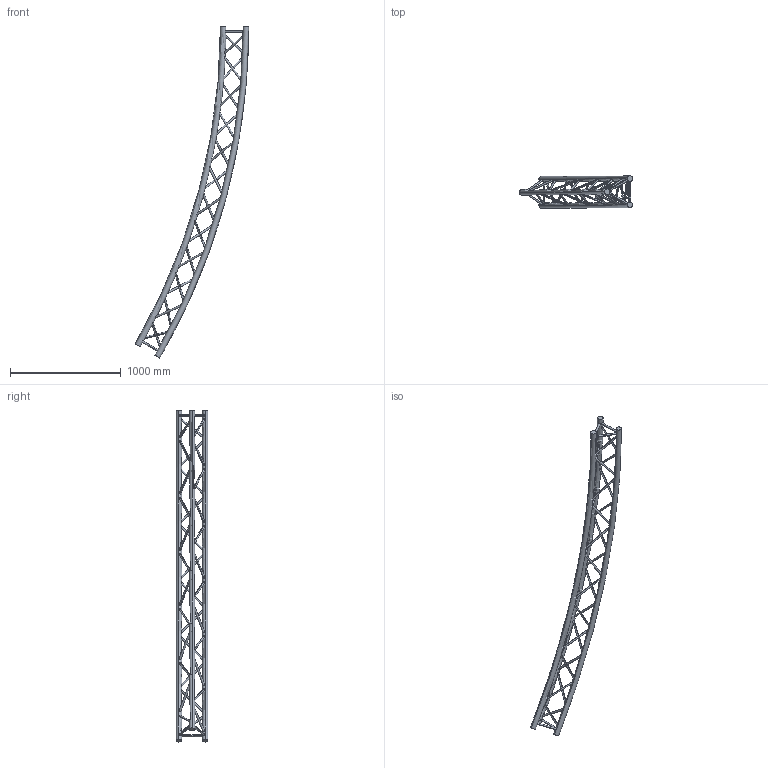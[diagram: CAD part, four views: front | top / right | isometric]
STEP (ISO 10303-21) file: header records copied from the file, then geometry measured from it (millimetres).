
FILE_DESCRIPTION (( 'STEP AP203' ), '1' );
FILE_NAME ('SXC291200PI.STEP', '2009-10-21T09:02:47', ( 'CEDIA' ), ( 'CEDIA INDUSTRIE' ), 'SwSTEP 2.0', 'SolidWorks 2009', '' );
FILE_SCHEMA (( 'CONFIG_CONTROL_DESIGN' ));
Length unit declared in the file: millimetre
Products named in the file (1): SXC291200PI
Bounding box: 1024.9 x 287 x 3000 mm (x, y, z)
Volume: 20387952.8 mm3; surface area: 1990386.5 mm2
Topology: 1 solids, 1 shells, 96 faces, 270 edges, 180 vertices
Faces by surface type: cylinder 84, torus 6, plane 6
Entity records: 10707 total; most frequent: CARTESIAN_POINT 8301, ORIENTED_EDGE 540, DIRECTION 314, EDGE_CURVE 270, EDGE_LOOP 180, VERTEX_POINT 180, B_SPLINE_CURVE_WITH_KNOTS 168, AXIS2_PLACEMENT_3D 115
